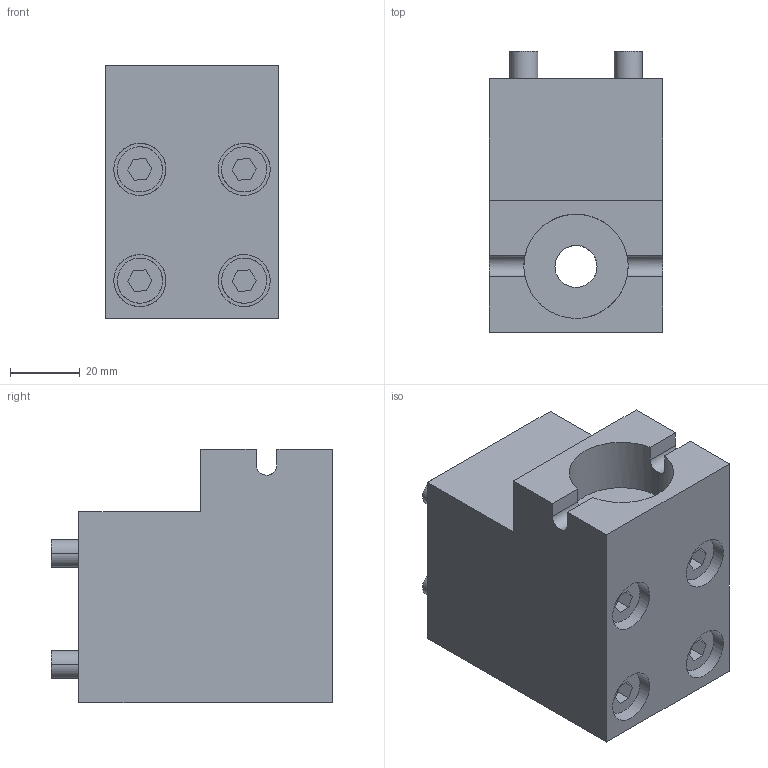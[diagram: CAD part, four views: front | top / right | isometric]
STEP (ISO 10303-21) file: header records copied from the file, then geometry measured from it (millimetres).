
FILE_DESCRIPTION(('STEP AP214'),'1');
FILE_NAME('EGT178_I_1706241_RD30_K50_63_HU.CATPart.stp','2015-09-14T13:11:14',('3D-Tool'),(' '),'Spatial InterOp 3D',' ',' ');
FILE_SCHEMA(('automotive_design'));
Length unit declared in the file: millimetre
Products named in the file (5): EGT178_I_1706241_RD30_K50_63_HU|EGT_178_RD30_K50_63_HU_ET.1_Hauptkörper|EGT_178_RD30_K50_63_HU_ET.1_Hauptkörper; EGT178_I_1706241_RD30_K50_63_HU|DIN912_ZYLINDERSCHRAUBE_M8X70_KPL.1|DIN912_ZYLINDERSCHRAUBE_M8X70_KPL.1; EGT178_I_1706241_RD30_K50_63_HU|DIN912_ZYLINDERSCHRAUBE_M8X70_KPL.2|DIN912_ZYLINDERSCHRAUBE_M8X70_KPL.2; EGT178_I_1706241_RD30_K50_63_HU|DIN912_ZYLINDERSCHRAUBE_M8X70_KPL.3|DIN912_ZYLINDERSCHRAUBE_M8X70_KPL.3; EGT178_I_1706241_RD30_K50_63_HU|DIN912_ZYLINDERSCHRAUBE_M8X70_KPL.4|DIN912_ZYLINDERSCHRAUBE_M8X70_KPL.4
Bounding box: 50 x 80.9 x 73 mm (x, y, z)
Volume: 213028.2 mm3; surface area: 45961.1 mm2
Topology: 5 solids, 5 shells, 108 faces, 289 edges, 207 vertices
Faces by surface type: plane 62, cylinder 46
Entity records: 4277 total; most frequent: CARTESIAN_POINT 1239, ORIENTED_EDGE 578, EDGE_CURVE 289, DIRECTION 226, VERTEX_POINT 207, B_SPLINE_CURVE_WITH_KNOTS 156, EDGE_LOOP 134, STYLED_ITEM 113
